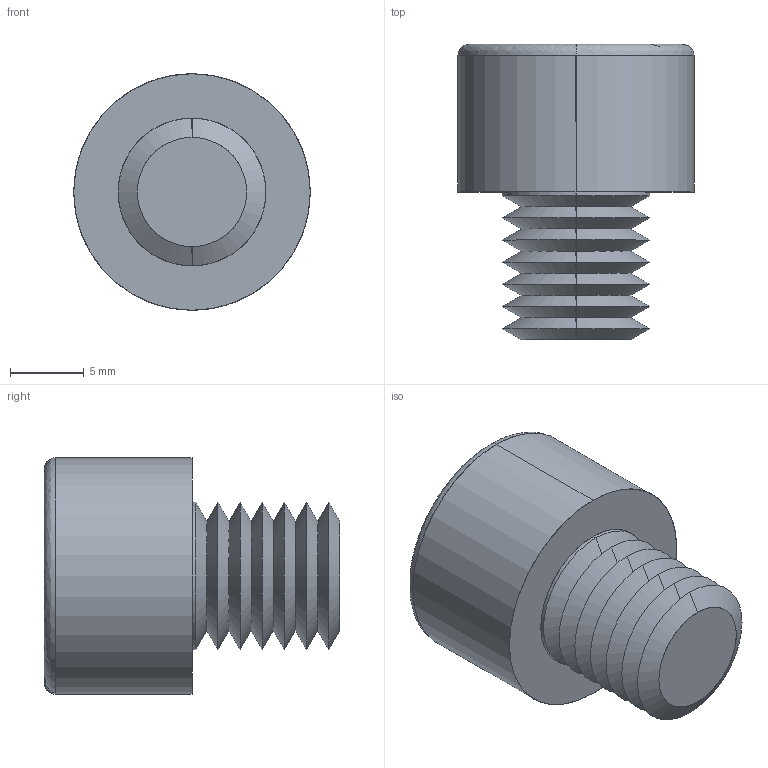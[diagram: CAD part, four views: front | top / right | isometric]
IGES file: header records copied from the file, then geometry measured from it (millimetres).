
Start section: SolidWorks IGES file using analytic representation for surfaces
Global section: file name: C:\Users\ianosborn\Desktop\N0007.91N_v2\N0007.91N_v2_20250519_IGES\91N.100.0100.igs; native system: SolidWorks 2019; preprocessor: SolidWorks 2019; author: IanOsborn; date: 250520.095441; units: millimetre
Bounding box: 16 x 20 x 16 mm (x, y, z)
Surface area: 1620.6 mm2 (no closed solid volume)
Topology: 0 solids, 0 shells, 56 faces, 445 edges, 443 vertices
Faces by surface type: revolution 39, bspline 17
